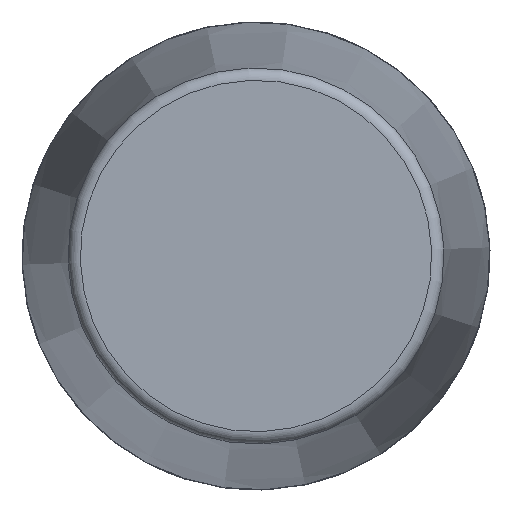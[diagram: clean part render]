
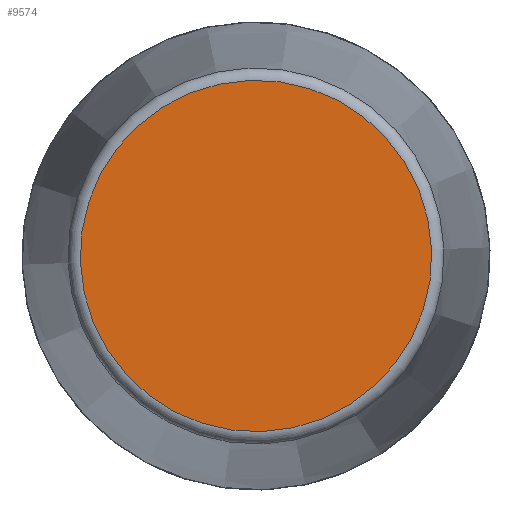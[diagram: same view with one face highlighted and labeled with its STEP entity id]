
A CAD part, front view. The second image highlights one B-rep face of the part: STEP entity #9574.
In plain terms, the highlighted planar face has unit normal (0, -1, 0) as drawn and (1, 0, 0) by its records, which use the part's own axes.
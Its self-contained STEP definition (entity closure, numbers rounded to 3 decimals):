
#2689=PLANE('',#9958);
#3305=FACE_OUTER_BOUND('',#3897,.T.);
#3897=EDGE_LOOP('',(#9024));
#3938=CIRCLE('',#9954,142.619);
#4878=VERTEX_POINT('',#17965);
#6263=EDGE_CURVE('',#4878,#4878,#3938,.T.);
#9024=ORIENTED_EDGE('',*,*,#6263,.F.);
#9574=ADVANCED_FACE('',(#3305),#2689,.T.);
#9954=AXIS2_PLACEMENT_3D('',#17966,#11408,#11409);
#9958=AXIS2_PLACEMENT_3D('',#17972,#11416,#11417);
#11408=DIRECTION('center_axis',(-1.,0.,0.));
#11409=DIRECTION('ref_axis',(0.,0.,
1.));
#11416=DIRECTION('center_axis',(1.,0.,0.));
#11417=DIRECTION('ref_axis',(0.,0.,-1.));
#17965=CARTESIAN_POINT('',(668.,0.,-142.619));
#17966=CARTESIAN_POINT('Origin',(668.,0.,0.));
#17972=CARTESIAN_POINT('Origin',(668.,0.,0.));
